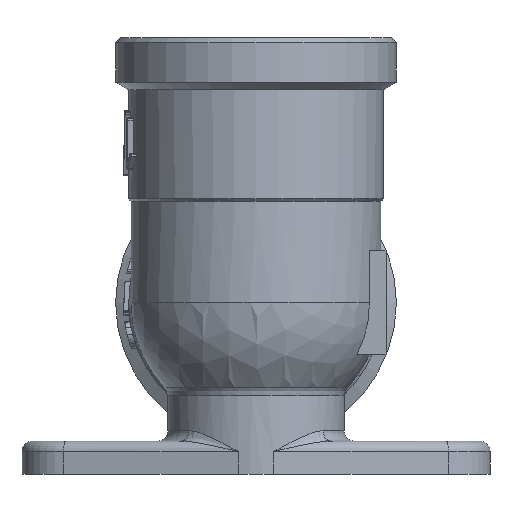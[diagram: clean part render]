
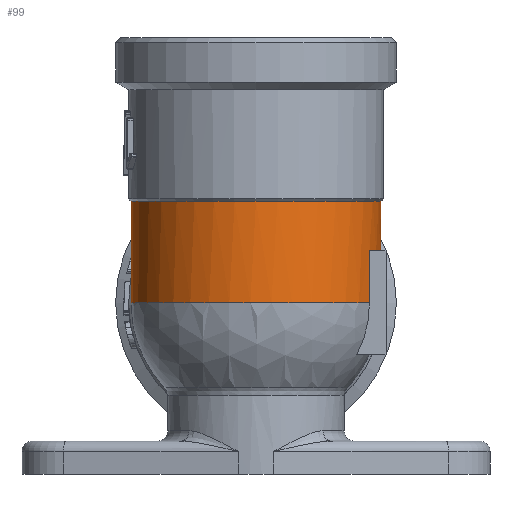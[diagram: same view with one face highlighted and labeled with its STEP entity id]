
A CAD part, front view. The second image highlights one B-rep face of the part: STEP entity #99.
In plain terms, the highlighted cylindrical face has radius 12 mm (diameter 24 mm), a partial arc.
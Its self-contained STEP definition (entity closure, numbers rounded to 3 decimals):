
#99=ADVANCED_FACE('',(#730),#732,.T.);
#730=FACE_BOUND('',#731,.T.);
#731=EDGE_LOOP('',(#2933,#2934,#2935,#2936,#2937,#2938,#2939,#2940));
#732=CYLINDRICAL_SURFACE('',#733,12.);
#733=AXIS2_PLACEMENT_3D('',#734,#735,#736);
#734=CARTESIAN_POINT('',(0.,0.,0.));
#735=DIRECTION('',(0.,0.,1.));
#736=DIRECTION('',(-1.,0.,0.));
#2933=ORIENTED_EDGE('',*,*,#4080,.F.);
#2934=ORIENTED_EDGE('',*,*,#4081,.F.);
#2935=ORIENTED_EDGE('',*,*,#4013,.T.);
#2936=ORIENTED_EDGE('',*,*,#3947,.F.);
#2937=ORIENTED_EDGE('',*,*,#3957,.F.);
#2938=ORIENTED_EDGE('',*,*,#3952,.F.);
#2939=ORIENTED_EDGE('',*,*,#4082,.T.);
#2940=ORIENTED_EDGE('',*,*,#4083,.F.);
#3947=EDGE_CURVE('',#4531,#4522,#4533,.F.);
#3952=EDGE_CURVE('',#4539,#4542,#4543,.T.);
#3957=EDGE_CURVE('',#4542,#4531,#4550,.F.);
#4013=EDGE_CURVE('',#4640,#4522,#4641,.F.);
#4080=EDGE_CURVE('',#4770,#4771,#4772,.F.);
#4081=EDGE_CURVE('',#4640,#4770,#4773,.F.);
#4082=EDGE_CURVE('',#4539,#4650,#4774,.F.);
#4083=EDGE_CURVE('',#4771,#4650,#4775,.F.);
#4522=VERTEX_POINT('',#6040);
#4531=VERTEX_POINT('',#6184);
#4533=B_SPLINE_CURVE_WITH_KNOTS('',3,
(#6191,#6192,#6193,#6194,#6195,#6196,#6197,#6198,#6199,#6200,#6201,#6202,#6203,#6204,
#6205),
.UNSPECIFIED.,.F.,.F.,
(4,1,1,1,1,1,1,1,1,1,1,1,4),
(0.,0.046,0.1,0.159,0.236,0.323,
0.418,0.508,0.62,0.739,0.852,
0.933,1.),
.UNSPECIFIED.);
#4539=VERTEX_POINT('',#6283);
#4542=VERTEX_POINT('',#6329);
#4543=B_SPLINE_CURVE_WITH_KNOTS('',3,
(#6330,#6331,#6332,#6333,#6334,#6335,#6336,#6337,#6338,#6339,#6340,#6341,#6342,#6343,
#6344),
.UNSPECIFIED.,.F.,.F.,
(4,1,1,1,1,1,1,1,1,1,1,1,4),
(0.,0.046,0.1,0.159,0.236,0.323,
0.418,0.508,0.62,0.739,0.852,
0.933,1.),
.UNSPECIFIED.);
#4550=CIRCLE('',#6407,12.);
#4640=VERTEX_POINT('',#6846);
#4641=B_SPLINE_CURVE_WITH_KNOTS('',3,
(#6847,#6848,#6849,#6850,#6851,#6852),
.UNSPECIFIED.,.F.,.F.,
(4,1,1,4),
(0.,0.333,0.667,1.),
.UNSPECIFIED.);
#4650=VERTEX_POINT('',#6916);
#4770=VERTEX_POINT('',#7617);
#4771=VERTEX_POINT('',#7618);
#4772=LINE('',#7619,#7620);
#4773=CIRCLE('',#7622,12.);
#4774=B_SPLINE_CURVE_WITH_KNOTS('',3,
(#7626,#7627,#7628,#7629,#7630,#7631,#7632,#7633,#7634,#7635,#7636),
.UNSPECIFIED.,.F.,.F.,
(4,1,1,1,1,1,1,1,4),
(0.,0.167,0.314,0.437,0.557,0.665,
0.767,0.877,1.),
.UNSPECIFIED.);
#4775=CIRCLE('',#7637,12.);
#6040=CARTESIAN_POINT('',(8.86,8.093,9.441));
#6184=CARTESIAN_POINT('',(9.402,7.457,9.75));
#6191=CARTESIAN_POINT('',(8.86,8.093,9.441));
#6192=CARTESIAN_POINT('',(8.868,8.085,9.451));
#6193=CARTESIAN_POINT('',(8.883,8.068,9.47));
#6194=CARTESIAN_POINT('',(8.909,8.039,9.5));
#6195=CARTESIAN_POINT('',(8.94,8.005,9.533));
#6196=CARTESIAN_POINT('',(8.978,7.962,9.57));
#6197=CARTESIAN_POINT('',(9.023,7.911,9.608));
#6198=CARTESIAN_POINT('',(9.072,7.855,9.644));
#6199=CARTESIAN_POINT('',(9.127,7.791,9.678));
#6200=CARTESIAN_POINT('',(9.187,7.72,9.707));
#6201=CARTESIAN_POINT('',(9.252,7.642,9.73));
#6202=CARTESIAN_POINT('',(9.312,7.569,9.743));
#6203=CARTESIAN_POINT('',(9.361,7.508,9.749));
#6204=CARTESIAN_POINT('',(9.389,7.473,9.75));
#6205=CARTESIAN_POINT('',(9.402,7.457,9.75));
#6283=CARTESIAN_POINT('',(-8.86,8.093,9.441));
#6329=CARTESIAN_POINT('',(-9.402,7.457,9.75));
#6330=CARTESIAN_POINT('',(-8.86,8.093,9.441));
#6331=CARTESIAN_POINT('',(-8.868,8.085,9.451));
#6332=CARTESIAN_POINT('',(-8.883,8.068,9.47));
#6333=CARTESIAN_POINT('',(-8.909,8.039,9.5));
#6334=CARTESIAN_POINT('',(-8.94,8.005,9.533));
#6335=CARTESIAN_POINT('',(-8.978,7.962,9.57));
#6336=CARTESIAN_POINT('',(-9.023,7.911,9.608));
#6337=CARTESIAN_POINT('',(-9.072,7.855,9.644));
#6338=CARTESIAN_POINT('',(-9.127,7.791,9.678));
#6339=CARTESIAN_POINT('',(-9.187,7.72,9.707));
#6340=CARTESIAN_POINT('',(-9.252,7.642,9.73));
#6341=CARTESIAN_POINT('',(-9.312,7.569,9.743));
#6342=CARTESIAN_POINT('',(-9.361,7.508,9.749));
#6343=CARTESIAN_POINT('',(-9.389,7.473,9.75));
#6344=CARTESIAN_POINT('',(-9.402,7.457,9.75));
#6407=AXIS2_PLACEMENT_3D('',#6408,#6409,#6410);
#6408=CARTESIAN_POINT('',(0.,0.,9.75));
#6409=DIRECTION('',(0.,0.,-1.));
#6410=DIRECTION('',(0.783,0.621,0.));
#6846=CARTESIAN_POINT('',(11.208,4.287,5.001));
#6847=CARTESIAN_POINT('',(8.86,8.093,9.441));
#6848=CARTESIAN_POINT('',(9.221,7.698,8.985));
#6849=CARTESIAN_POINT('',(9.866,6.887,8.033));
#6850=CARTESIAN_POINT('',(10.642,5.609,6.544));
#6851=CARTESIAN_POINT('',(11.039,4.73,5.519));
#6852=CARTESIAN_POINT('',(11.208,4.287,5.001));
#6916=CARTESIAN_POINT('',(-12.,0.,0.));
#7617=CARTESIAN_POINT('',(10.908,-5.001,5.001));
#7618=CARTESIAN_POINT('',(10.908,-5.001,0.));
#7619=CARTESIAN_POINT('',(10.908,-5.001,0.));
#7620=VECTOR('',#7621,1.);
#7621=DIRECTION('',(0.,0.,1.));
#7622=AXIS2_PLACEMENT_3D('',#7623,#7624,#7625);
#7623=CARTESIAN_POINT('',(0.,0.,5.001));
#7624=DIRECTION('',(0.,0.,1.));
#7625=DIRECTION('',(0.909,-0.417,0.));
#7626=CARTESIAN_POINT('',(-12.,0.,0.));
#7627=CARTESIAN_POINT('',(-12.,0.469,0.548));
#7628=CARTESIAN_POINT('',(-11.948,1.352,1.578));
#7629=CARTESIAN_POINT('',(-11.74,2.575,3.004));
#7630=CARTESIAN_POINT('',(-11.446,3.656,4.265));
#7631=CARTESIAN_POINT('',(-11.091,4.619,5.389));
#7632=CARTESIAN_POINT('',(-10.675,5.508,6.426));
#7633=CARTESIAN_POINT('',(-10.196,6.353,7.412));
#7634=CARTESIAN_POINT('',(-9.609,7.216,8.417));
#7635=CARTESIAN_POINT('',(-9.134,7.793,9.095));
#7636=CARTESIAN_POINT('',(-8.86,8.093,9.441));
#7637=AXIS2_PLACEMENT_3D('',#7638,#7639,#7640);
#7638=CARTESIAN_POINT('',(0.,0.,0.));
#7639=DIRECTION('',(0.,0.,1.));
#7640=DIRECTION('',(-1.,0.,0.));
